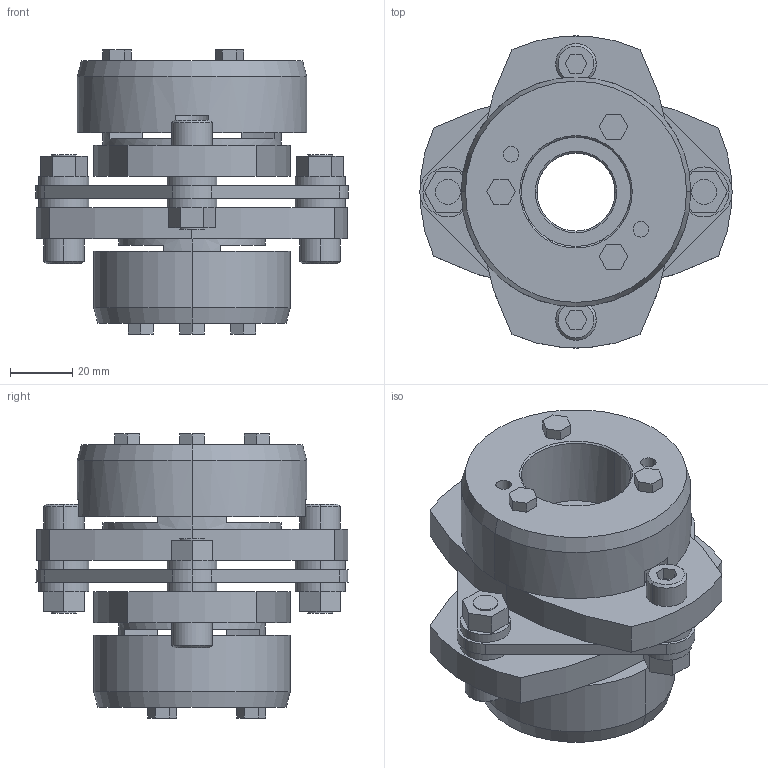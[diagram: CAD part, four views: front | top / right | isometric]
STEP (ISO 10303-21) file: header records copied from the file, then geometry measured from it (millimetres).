
FILE_DESCRIPTION((''),'2;1');
FILE_NAME('LCS-100T7-25×35.stp','2011-09-08T17:16:05',(''),(''),'AutoCAD STEP 2000i','AutoCAD 2000i',', , ');
FILE_SCHEMA(('CONFIG_CONTROL_DESIGN'));
Length unit declared in the file: millimetre
Products named in the file (9): LCS-100T7-25×35; 忣兜1; LC100T7-T035; LC100T7-T030; LC100T7-T025-1; LC100T7-T025; LC100T7-T022-1; LC100T7-T022; LCS100-ITA
Assembly tree (8 placements, depth 2):
  LCS-100T7-25×35
    忣兜1
    LC100T7-T035
    LC100T7-T030
    LC100T7-T025-1
    LC100T7-T025
    LC100T7-T022-1
    LC100T7-T022
    LCS100-ITA
Bounding box: 100 x 99.93 x 91 mm (x, y, z)
Volume: 264231.8 mm3; surface area: 64898.8 mm2
Topology: 1 solids, 1 shells, 236 faces, 580 edges, 380 vertices
Faces by surface type: plane 134, cylinder 82, cone 20
Entity records: 7231 total; most frequent: DIRECTION 1274, CARTESIAN_POINT 1205, ORIENTED_EDGE 1160, EDGE_CURVE 580, AXIS2_PLACEMENT_3D 449, VERTEX_POINT 380, VECTOR 376, LINE 376
